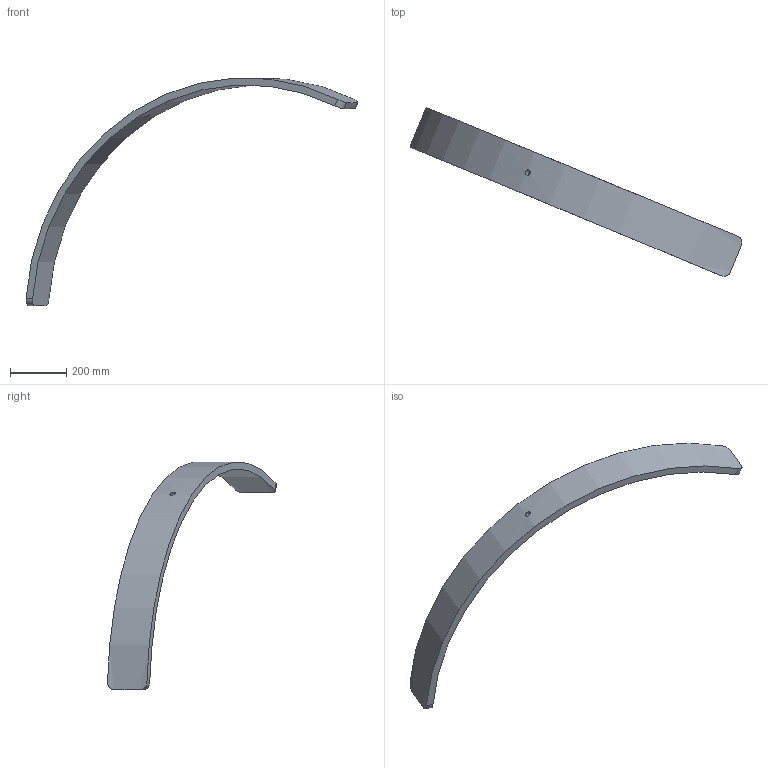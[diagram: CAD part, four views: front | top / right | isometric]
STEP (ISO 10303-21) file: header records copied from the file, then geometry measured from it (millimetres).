
FILE_DESCRIPTION (( 'STEP AP214' ), '1' );
FILE_NAME ('Section 6 AR.STEP', '2025-01-09T19:43:24', ( '' ), ( '' ), 'SwSTEP 2.0', 'SolidWorks 2024', '' );
FILE_SCHEMA (( 'AUTOMOTIVE_DESIGN' ));
Length unit declared in the file: inch
Products named in the file (1): Section 6 AR
Bounding box: 1184.04 x 603.02 x 812.3 mm (x, y, z)
Volume: 6420589.9 mm3; surface area: 598284.9 mm2
Topology: 1 solids, 1 shells, 11 faces, 27 edges, 18 vertices
Faces by surface type: cylinder 7, plane 4
Full cylindrical faces by diameter (mm): 19.431 x1
Entity records: 745 total; most frequent: CARTESIAN_POINT 470, ORIENTED_EDGE 52, DIRECTION 44, EDGE_CURVE 26, VERTEX_POINT 18, AXIS2_PLACEMENT_3D 16, EDGE_LOOP 14, VECTOR 12
